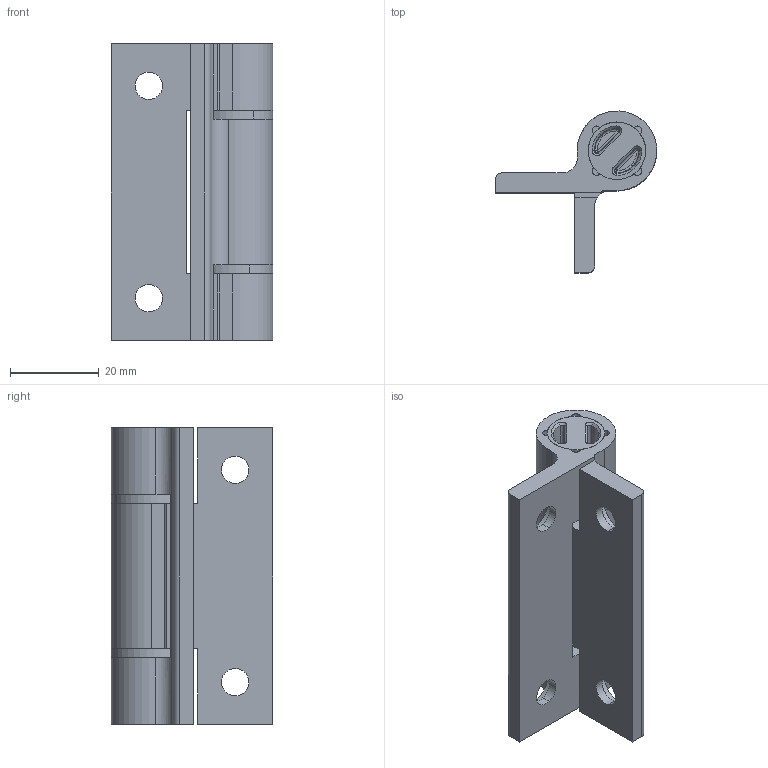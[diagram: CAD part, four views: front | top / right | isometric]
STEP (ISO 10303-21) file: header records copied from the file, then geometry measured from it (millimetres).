
FILE_DESCRIPTION(('STEP AP203'),'1');
FILE_NAME(' ',' ',('TraceParts'),('TraceParts S.A.'),'XStep 1.0',' ',' ');
FILE_SCHEMA(('CONFIG_CONTROL_DESIGN'));
Length unit declared in the file: millimetre
Products named in the file (5): 1; 2; 3; 4; 5
Bounding box: 36.5 x 36.5 x 67 mm (x, y, z)
Volume: 27201.5 mm3; surface area: 17711.7 mm2
Topology: 5 solids, 9 shells, 187 faces, 462 edges, 301 vertices
Faces by surface type: cylinder 83, bspline 41, plane 39, cone 16, torus 8
Entity records: 6790 total; most frequent: CARTESIAN_POINT 2032, DIRECTION 1011, ORIENTED_EDGE 924, EDGE_CURVE 462, AXIS2_PLACEMENT_3D 415, VERTEX_POINT 301, CIRCLE 264, EDGE_LOOP 213
